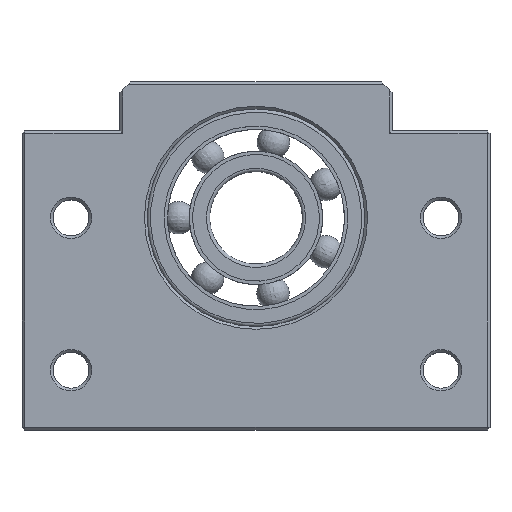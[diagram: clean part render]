
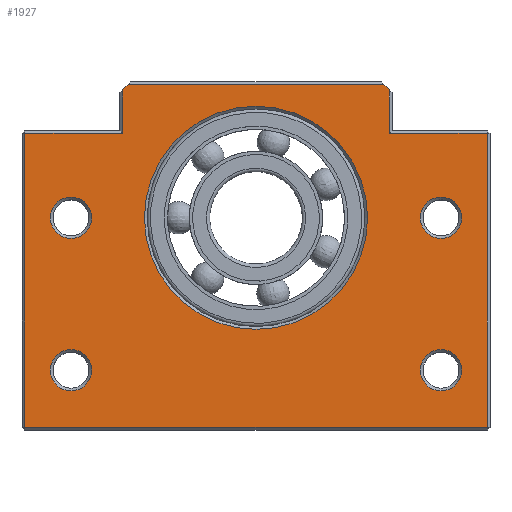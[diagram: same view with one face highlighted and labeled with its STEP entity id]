
A CAD part, top view. The second image highlights one B-rep face of the part: STEP entity #1927.
In plain terms, the highlighted planar face has unit normal (0, 0, 1) as drawn and (0, 0, -1) by its records, which use the part's own axes.
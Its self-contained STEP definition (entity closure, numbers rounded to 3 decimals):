
#115=FACE_BOUND('',#422,.T.);
#116=FACE_BOUND('',#423,.T.);
#117=FACE_BOUND('',#424,.T.);
#118=FACE_BOUND('',#425,.T.);
#119=FACE_BOUND('',#426,.T.);
#161=CIRCLE('',#2105,3.8);
#162=CIRCLE('',#2106,3.8);
#163=CIRCLE('',#2107,3.8);
#164=CIRCLE('',#2108,3.8);
#165=CIRCLE('',#2109,20.5);
#311=FACE_OUTER_BOUND('',#421,.T.);
#421=EDGE_LOOP('',(#1320,#1321,#1322,#1323,#1324,#1325,#1326,#1327,#1328,
#1329));
#422=EDGE_LOOP('',(#1330));
#423=EDGE_LOOP('',(#1331));
#424=EDGE_LOOP('',(#1332));
#425=EDGE_LOOP('',(#1333));
#426=EDGE_LOOP('',(#1334));
#579=LINE('',#3025,#700);
#584=LINE('',#3035,#705);
#585=LINE('',#3037,#706);
#586=LINE('',#3039,#707);
#587=LINE('',#3041,#708);
#588=LINE('',#3043,#709);
#589=LINE('',#3045,#710);
#590=LINE('',#3047,#711);
#591=LINE('',#3049,#712);
#592=LINE('',#3050,#713);
#700=VECTOR('',#2374,10.);
#705=VECTOR('',#2381,10.);
#706=VECTOR('',#2382,10.);
#707=VECTOR('',#2383,10.);
#708=VECTOR('',#2384,10.);
#709=VECTOR('',#2385,10.);
#710=VECTOR('',#2386,10.);
#711=VECTOR('',#2387,10.);
#712=VECTOR('',#2388,10.);
#713=VECTOR('',#2389,10.);
#821=VERTEX_POINT('',#3022);
#822=VERTEX_POINT('',#3024);
#826=VERTEX_POINT('',#3034);
#827=VERTEX_POINT('',#3036);
#828=VERTEX_POINT('',#3038);
#829=VERTEX_POINT('',#3040);
#830=VERTEX_POINT('',#3042);
#831=VERTEX_POINT('',#3044);
#832=VERTEX_POINT('',#3046);
#833=VERTEX_POINT('',#3048);
#834=VERTEX_POINT('',#3051);
#835=VERTEX_POINT('',#3053);
#836=VERTEX_POINT('',#3055);
#837=VERTEX_POINT('',#3057);
#838=VERTEX_POINT('',#3059);
#1033=EDGE_CURVE('',#821,#822,#579,.T.);
#1038=EDGE_CURVE('',#826,#821,#584,.T.);
#1039=EDGE_CURVE('',#827,#826,#585,.T.);
#1040=EDGE_CURVE('',#828,#827,#586,.T.);
#1041=EDGE_CURVE('',#829,#828,#587,.T.);
#1042=EDGE_CURVE('',#830,#829,#588,.T.);
#1043=EDGE_CURVE('',#831,#830,#589,.T.);
#1044=EDGE_CURVE('',#832,#831,#590,.T.);
#1045=EDGE_CURVE('',#833,#832,#591,.T.);
#1046=EDGE_CURVE('',#822,#833,#592,.T.);
#1047=EDGE_CURVE('',#834,#834,#161,.T.);
#1048=EDGE_CURVE('',#835,#835,#162,.T.);
#1049=EDGE_CURVE('',#836,#836,#163,.T.);
#1050=EDGE_CURVE('',#837,#837,#164,.T.);
#1051=EDGE_CURVE('',#838,#838,#165,.T.);
#1320=ORIENTED_EDGE('',*,*,#1033,.F.);
#1321=ORIENTED_EDGE('',*,*,#1038,.F.);
#1322=ORIENTED_EDGE('',*,*,#1039,.F.);
#1323=ORIENTED_EDGE('',*,*,#1040,.F.);
#1324=ORIENTED_EDGE('',*,*,#1041,.F.);
#1325=ORIENTED_EDGE('',*,*,#1042,.F.);
#1326=ORIENTED_EDGE('',*,*,#1043,.F.);
#1327=ORIENTED_EDGE('',*,*,#1044,.F.);
#1328=ORIENTED_EDGE('',*,*,#1045,.F.);
#1329=ORIENTED_EDGE('',*,*,#1046,.F.);
#1330=ORIENTED_EDGE('',*,*,#1047,.F.);
#1331=ORIENTED_EDGE('',*,*,#1048,.F.);
#1332=ORIENTED_EDGE('',*,*,#1049,.F.);
#1333=ORIENTED_EDGE('',*,*,#1050,.F.);
#1334=ORIENTED_EDGE('',*,*,#1051,.F.);
#1877=PLANE('',#2104);
#1927=ADVANCED_FACE('',(#311,#115,#116,#117,#118,#119),#1877,.T.);
#2104=AXIS2_PLACEMENT_3D('',#3033,#2379,#2380);
#2105=AXIS2_PLACEMENT_3D('',#3052,#2390,#2391);
#2106=AXIS2_PLACEMENT_3D('',#3054,#2392,#2393);
#2107=AXIS2_PLACEMENT_3D('',#3056,#2394,#2395);
#2108=AXIS2_PLACEMENT_3D('',#3058,#2396,#2397);
#2109=AXIS2_PLACEMENT_3D('',#3060,#2398,#2399);
#2374=DIRECTION('',(-0.707,-0.707,0.));
#2379=DIRECTION('center_axis',(0.,0.,-1.));
#2380=DIRECTION('ref_axis',(-1.,0.,0.));
#2381=DIRECTION('',(-1.,0.,0.));
#2382=DIRECTION('',(-0.707,0.707,0.));
#2383=DIRECTION('',(0.,1.,0.));
#2384=DIRECTION('',(-1.,0.,0.));
#2385=DIRECTION('',(0.,1.,0.));
#2386=DIRECTION('',(1.,0.,0.));
#2387=DIRECTION('',(0.,-1.,0.));
#2388=DIRECTION('',(-1.,0.,0.));
#2389=DIRECTION('',(0.,-1.,0.));
#2390=DIRECTION('center_axis',(0.,0.,-1.));
#2391=DIRECTION('ref_axis',(1.,0.,0.));
#2392=DIRECTION('center_axis',(0.,0.,-1.));
#2393=DIRECTION('ref_axis',(1.,0.,0.));
#2394=DIRECTION('center_axis',(0.,0.,-1.));
#2395=DIRECTION('ref_axis',(1.,0.,0.));
#2396=DIRECTION('center_axis',(0.,0.,-1.));
#2397=DIRECTION('ref_axis',(1.,0.,0.));
#2398=DIRECTION('center_axis',(0.,0.,-1.));
#2399=DIRECTION('ref_axis',(-1.,0.,0.));
#3022=CARTESIAN_POINT('',(-23.5,24.5,-11.5));
#3024=CARTESIAN_POINT('',(-24.5,23.5,-11.5));
#3025=CARTESIAN_POINT('',(-26.02,21.98,-11.5));
#3033=CARTESIAN_POINT('Origin',(0.,-8.08,-11.5));
#3034=CARTESIAN_POINT('',(23.5,24.5,-11.5));
#3035=CARTESIAN_POINT('',(12.5,24.5,-11.5));
#3036=CARTESIAN_POINT('',(24.5,23.5,-11.5));
#3037=CARTESIAN_POINT('',(26.02,21.98,-11.5));
#3038=CARTESIAN_POINT('',(24.5,15.5,-11.5));
#3039=CARTESIAN_POINT('',(24.5,3.96,-11.5));
#3040=CARTESIAN_POINT('',(42.5,15.5,-11.5));
#3041=CARTESIAN_POINT('',(21.5,15.5,-11.5));
#3042=CARTESIAN_POINT('',(42.5,-38.5,-11.5));
#3043=CARTESIAN_POINT('',(42.5,-23.54,-11.5));
#3044=CARTESIAN_POINT('',(-42.5,-38.5,-11.5));
#3045=CARTESIAN_POINT('',(-21.5,-38.5,-11.5));
#3046=CARTESIAN_POINT('',(-42.5,15.5,-11.5));
#3047=CARTESIAN_POINT('',(-42.5,3.96,-11.5));
#3048=CARTESIAN_POINT('',(-24.5,15.5,-11.5));
#3049=CARTESIAN_POINT('',(-12.5,15.5,-11.5));
#3050=CARTESIAN_POINT('',(-24.5,8.46,-11.5));
#3051=CARTESIAN_POINT('',(-37.8,0.,-11.5));
#3052=CARTESIAN_POINT('Origin',(-34.,0.,-11.5));
#3053=CARTESIAN_POINT('',(30.2,0.,-11.5));
#3054=CARTESIAN_POINT('Origin',(34.,0.,-11.5));
#3055=CARTESIAN_POINT('',(30.2,-28.,-11.5));
#3056=CARTESIAN_POINT('Origin',(34.,-28.,-11.5));
#3057=CARTESIAN_POINT('',(-37.8,-28.,-11.5));
#3058=CARTESIAN_POINT('Origin',(-34.,-28.,-11.5));
#3059=CARTESIAN_POINT('',(20.5,0.,-11.5));
#3060=CARTESIAN_POINT('Origin',(0.,0.,-11.5));
